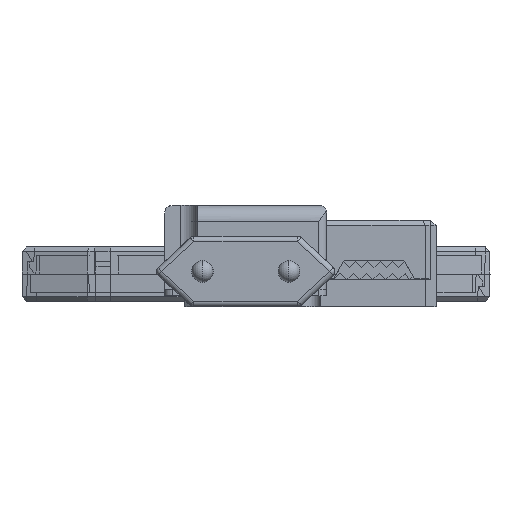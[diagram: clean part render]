
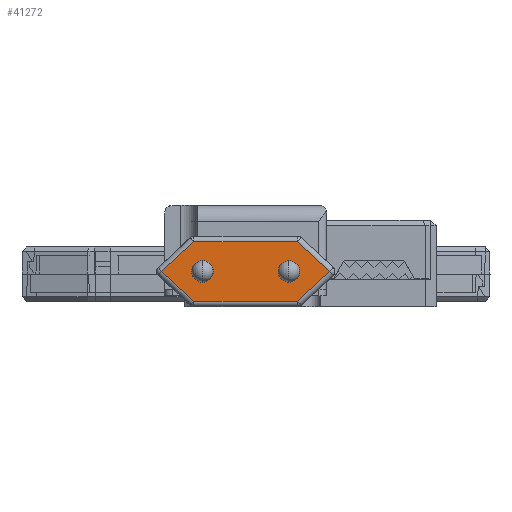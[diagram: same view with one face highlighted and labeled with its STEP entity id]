
A CAD part, left-side view. The second image highlights one B-rep face of the part: STEP entity #41272.
In plain terms, the highlighted planar face has unit normal (-1, 0, 0) as drawn and (0, 0, 1) by its records, which use the part's own axes.
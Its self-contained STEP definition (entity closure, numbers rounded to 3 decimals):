
#174 = VECTOR ( 'NONE', #50668, 1000. ) ;
#333 = ORIENTED_EDGE ( 'NONE', *, *, #32387, .T. ) ;
#917 = CARTESIAN_POINT ( 'NONE',  ( 0., -8., 68.5 ) ) ;
#1376 = AXIS2_PLACEMENT_3D ( 'NONE', #26407, #15508, #3609 ) ;
#1563 = CARTESIAN_POINT ( 'NONE',  ( -5.5, -10., 68.5 ) ) ;
#1775 = DIRECTION ( 'NONE',  ( 0., 1., 0. ) ) ;
#1836 = ORIENTED_EDGE ( 'NONE', *, *, #33731, .F. ) ;
#2165 = LINE ( 'NONE', #45172, #16746 ) ;
#2170 = VERTEX_POINT ( 'NONE', #28372 ) ;
#2488 = VERTEX_POINT ( 'NONE', #34422 ) ;
#2641 = DIRECTION ( 'NONE',  ( 1., 0., 0. ) ) ;
#3048 = DIRECTION ( 'NONE',  ( 1., 0., 0. ) ) ;
#3609 = DIRECTION ( 'NONE',  ( 1., 0., 0. ) ) ;
#3806 = VECTOR ( 'NONE', #34834, 1000. ) ;
#4718 = EDGE_CURVE ( 'NONE', #15494, #34655, #13421, .T. ) ;
#4751 = ORIENTED_EDGE ( 'NONE', *, *, #17326, .T. ) ;
#6508 = CARTESIAN_POINT ( 'NONE',  ( 0., 8., 68.5 ) ) ;
#6847 = CARTESIAN_POINT ( 'NONE',  ( 0.733, -16.32, 68.5 ) ) ;
#7874 = AXIS2_PLACEMENT_3D ( 'NONE', #50911, #30714, #15410 ) ;
#8287 = ORIENTED_EDGE ( 'NONE', *, *, #4718, .T. ) ;
#8361 = AXIS2_PLACEMENT_3D ( 'NONE', #34389, #34133, #3048 ) ;
#10357 = VERTEX_POINT ( 'NONE', #14249 ) ;
#10955 = EDGE_CURVE ( 'NONE', #2170, #15494, #2165, .T. ) ;
#11271 = VECTOR ( 'NONE', #1775, 1000. ) ;
#11964 = ORIENTED_EDGE ( 'NONE', *, *, #33606, .T. ) ;
#12347 = CIRCLE ( 'NONE', #13156, 1.9 ) ;
#12474 = EDGE_CURVE ( 'NONE', #48622, #16776, #16172, .T. ) ;
#12698 = EDGE_LOOP ( 'NONE', ( #49055, #8287, #333, #11964, #4751, #39220 ) ) ;
#13085 = ORIENTED_EDGE ( 'NONE', *, *, #44378, .F. ) ;
#13156 = AXIS2_PLACEMENT_3D ( 'NONE', #6508, #22017, #2641 ) ;
#13340 = AXIS2_PLACEMENT_3D ( 'NONE', #917, #20037, #36153 ) ;
#13421 = LINE ( 'NONE', #17794, #11271 ) ;
#14150 = CARTESIAN_POINT ( 'NONE',  ( -1.9, -8., 68.5 ) ) ;
#14249 = CARTESIAN_POINT ( 'NONE',  ( -5.5, -9.607, 68.5 ) ) ;
#15127 = LINE ( 'NONE', #6847, #3806 ) ;
#15234 = CARTESIAN_POINT ( 'NONE',  ( 0., 15.53, 68.5 ) ) ;
#15410 = DIRECTION ( 'NONE',  ( -1., 0., 0. ) ) ;
#15494 = VERTEX_POINT ( 'NONE', #33015 ) ;
#15508 = DIRECTION ( 'NONE',  ( 0., 0., 1. ) ) ;
#16172 = CIRCLE ( 'NONE', #7874, 1.9 ) ;
#16746 = VECTOR ( 'NONE', #17947, 1000. ) ;
#16776 = VERTEX_POINT ( 'NONE', #14150 ) ;
#17326 = EDGE_CURVE ( 'NONE', #39345, #10357, #40685, .T. ) ;
#17794 = CARTESIAN_POINT ( 'NONE',  ( 5.5, 10., 68.5 ) ) ;
#17947 = DIRECTION ( 'NONE',  ( 0.68, 0.733, 0. ) ) ;
#19788 = LINE ( 'NONE', #39253, #174 ) ;
#20037 = DIRECTION ( 'NONE',  ( 0., 0., 1. ) ) ;
#21315 = ORIENTED_EDGE ( 'NONE', *, *, #25627, .F. ) ;
#22017 = DIRECTION ( 'NONE',  ( 0., 0., 1. ) ) ;
#22232 = FACE_OUTER_BOUND ( 'NONE', #12698, .T. ) ;
#23264 = CIRCLE ( 'NONE', #13340, 1.9 ) ;
#25627 = EDGE_CURVE ( 'NONE', #48146, #2488, #30709, .T. ) ;
#26047 = CARTESIAN_POINT ( 'NONE',  ( 5.5, 9.607, 68.5 ) ) ;
#26407 = CARTESIAN_POINT ( 'NONE',  ( -15.786, 0., 68.5 ) ) ;
#26651 = FACE_BOUND ( 'NONE', #27594, .T. ) ;
#27594 = EDGE_LOOP ( 'NONE', ( #21315, #13085 ) ) ;
#27773 = DIRECTION ( 'NONE',  ( -0.68, 0.733, 0. ) ) ;
#28372 = CARTESIAN_POINT ( 'NONE',  ( 0., -15.53, 68.5 ) ) ;
#29001 = DIRECTION ( 'NONE',  ( 0., -1., 0. ) ) ;
#30642 = EDGE_LOOP ( 'NONE', ( #1836, #50085 ) ) ;
#30709 = CIRCLE ( 'NONE', #8361, 1.9 ) ;
#30714 = DIRECTION ( 'NONE',  ( 0., 0., 1. ) ) ;
#30775 = VECTOR ( 'NONE', #27773, 1000. ) ;
#31162 = CARTESIAN_POINT ( 'NONE',  ( -0.733, 16.32, 68.5 ) ) ;
#32387 = EDGE_CURVE ( 'NONE', #34655, #45928, #51121, .T. ) ;
#33015 = CARTESIAN_POINT ( 'NONE',  ( 5.5, -9.607, 68.5 ) ) ;
#33606 = EDGE_CURVE ( 'NONE', #45928, #39345, #19788, .T. ) ;
#33731 = EDGE_CURVE ( 'NONE', #16776, #48622, #23264, .T. ) ;
#34133 = DIRECTION ( 'NONE',  ( 0., 0., 1. ) ) ;
#34389 = CARTESIAN_POINT ( 'NONE',  ( 0., 8., 68.5 ) ) ;
#34422 = CARTESIAN_POINT ( 'NONE',  ( 1.9, 8., 68.5 ) ) ;
#34655 = VERTEX_POINT ( 'NONE', #26047 ) ;
#34834 = DIRECTION ( 'NONE',  ( 0.68, -0.733, 0. ) ) ;
#34874 = CARTESIAN_POINT ( 'NONE',  ( 1.9, -8., 68.5 ) ) ;
#36153 = DIRECTION ( 'NONE',  ( -1., 0., 0. ) ) ;
#39093 = FACE_BOUND ( 'NONE', #30642, .T. ) ;
#39215 = EDGE_CURVE ( 'NONE', #10357, #2170, #15127, .T. ) ;
#39220 = ORIENTED_EDGE ( 'NONE', *, *, #39215, .T. ) ;
#39253 = CARTESIAN_POINT ( 'NONE',  ( -5.767, 9.32, 68.5 ) ) ;
#39345 = VERTEX_POINT ( 'NONE', #44449 ) ;
#40685 = LINE ( 'NONE', #1563, #47833 ) ;
#41272 = ADVANCED_FACE ( 'NONE', ( #22232, #26651, #39093 ), #51012, .T. ) ;
#44378 = EDGE_CURVE ( 'NONE', #2488, #48146, #12347, .T. ) ;
#44449 = CARTESIAN_POINT ( 'NONE',  ( -5.5, 9.607, 68.5 ) ) ;
#45172 = CARTESIAN_POINT ( 'NONE',  ( 5.767, -9.32, 68.5 ) ) ;
#45928 = VERTEX_POINT ( 'NONE', #15234 ) ;
#47833 = VECTOR ( 'NONE', #29001, 1000. ) ;
#48146 = VERTEX_POINT ( 'NONE', #49194 ) ;
#48622 = VERTEX_POINT ( 'NONE', #34874 ) ;
#49055 = ORIENTED_EDGE ( 'NONE', *, *, #10955, .T. ) ;
#49194 = CARTESIAN_POINT ( 'NONE',  ( -1.9, 8., 68.5 ) ) ;
#50085 = ORIENTED_EDGE ( 'NONE', *, *, #12474, .F. ) ;
#50668 = DIRECTION ( 'NONE',  ( -0.68, -0.733, 0. ) ) ;
#50911 = CARTESIAN_POINT ( 'NONE',  ( 0., -8., 68.5 ) ) ;
#51012 = PLANE ( 'NONE',  #1376 ) ;
#51121 = LINE ( 'NONE', #31162, #30775 ) ;
